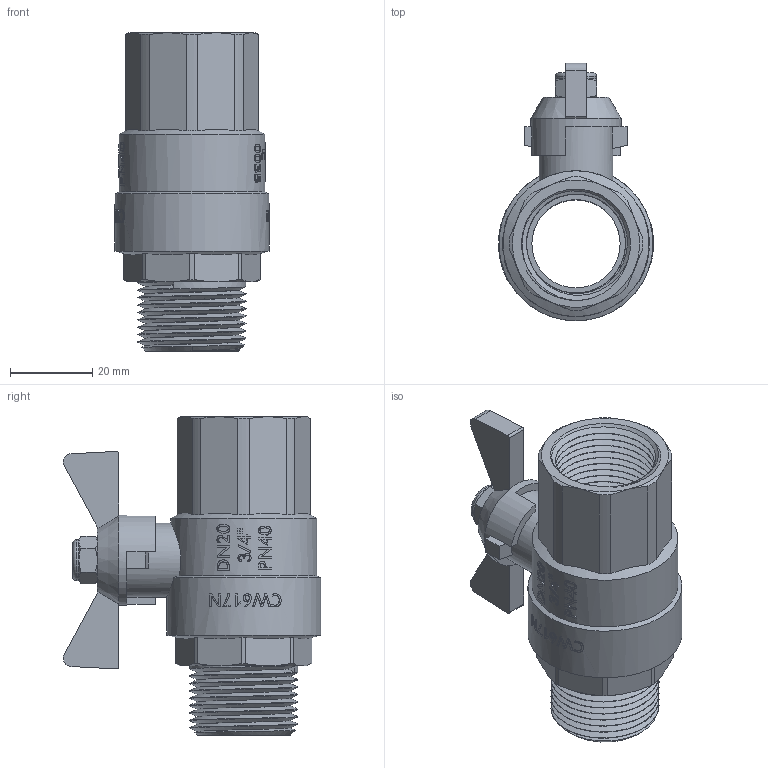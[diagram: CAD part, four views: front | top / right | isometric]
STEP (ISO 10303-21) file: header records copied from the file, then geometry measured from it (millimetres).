
FILE_DESCRIPTION(/* description */ (''),/* implementation_level */ '2;1');
FILE_NAME(/* name */ 'H:\Мишенин_3D\Исходные файлы 3D\VT.278.N.05.stp',/* time_stamp */ '2018-01-19T12:18:19+03:00',/* author */ ('MisheninAL'),/* organization */ (''),/* preprocessor_version */ 'ST-DEVELOPER v16.13',/* originating_system */ 'Autodesk Inventor 2018',/* authorisation */ '');
FILE_SCHEMA (('AUTOMOTIVE_DESIGN { 1 0 10303 214 3 1 1 }'));
Length unit declared in the file: millimetre
Products named in the file (1): VT.271_ВВ_3%4
Bounding box: 37.7 x 62.69 x 77.61 mm (x, y, z)
Surface area: 20771.4 mm2 (no closed solid volume)
Topology: 0 solids, 1 shells, 502 faces, 1331 edges, 876 vertices
Faces by surface type: plane 200, bspline 183, cylinder 82, cone 36, torus 1
Full cylindrical faces by diameter (mm): 10 x1, 18 x1, 21.5 x1, 22 x1, 24.1 x9, 35.5 x1, 37.5 x1
Entity records: 26656 total; most frequent: CARTESIAN_POINT 15229, ORIENTED_EDGE 2560, DIRECTION 1770, EDGE_CURVE 1280, VERTEX_POINT 846, AXIS2_PLACEMENT_3D 597, LINE 576, VECTOR 576
